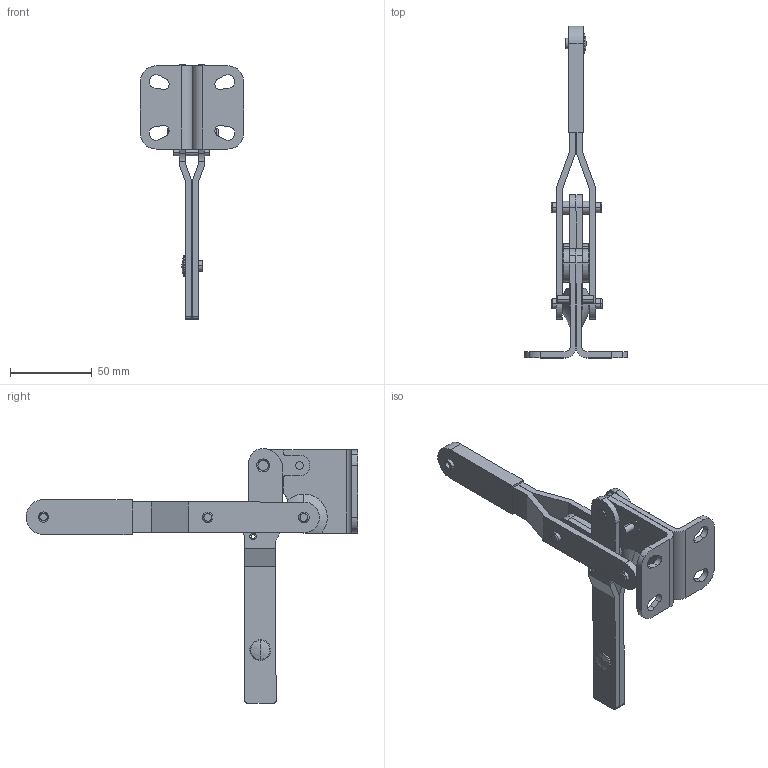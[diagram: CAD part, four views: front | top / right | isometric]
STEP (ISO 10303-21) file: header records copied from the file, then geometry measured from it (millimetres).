
FILE_DESCRIPTION((''),'2;1');
FILE_NAME('C:\lapeer-mfg\v400\STEP\VC-400.stp','2005-10-27T19:28:30',('rtaylor'),(''),'Autodesk Inventor 9','Autodesk Inventor 9','');
FILE_SCHEMA(('AUTOMOTIVE_DESIGN { 1 0 10303 214 1 1 1 1 }'));
Length unit declared in the file: inch
Products named in the file (13): VC-400; 100011; 120003-L; 120003-R; 130008; 150009; 150034; 150036; 150043; 150044; 102012; 110017-R; 110017-L
Assembly tree (17 placements, depth 2):
  VC-400
    100011  x2
    120003-L
    120003-R
    130008  x2
    150009
    150034  x2
    150036  x2
    150043
    150044  x2
    102012
    110017-R
    110017-L
Bounding box: 62.97 x 202.72 x 155.63 mm (x, y, z)
Volume: 88652.2 mm3; surface area: 64026.2 mm2
Topology: 17 solids, 17 shells, 343 faces, 866 edges, 566 vertices
Faces by surface type: cylinder 113, bspline 104, plane 98, torus 16, cone 8, sphere 4
Entity records: 9956 total; most frequent: CARTESIAN_POINT 2701, DIRECTION 1452, ORIENTED_EDGE 1450, EDGE_CURVE 725, AXIS2_PLACEMENT_3D 530, VERTEX_POINT 477, VECTOR 392, LINE 392
